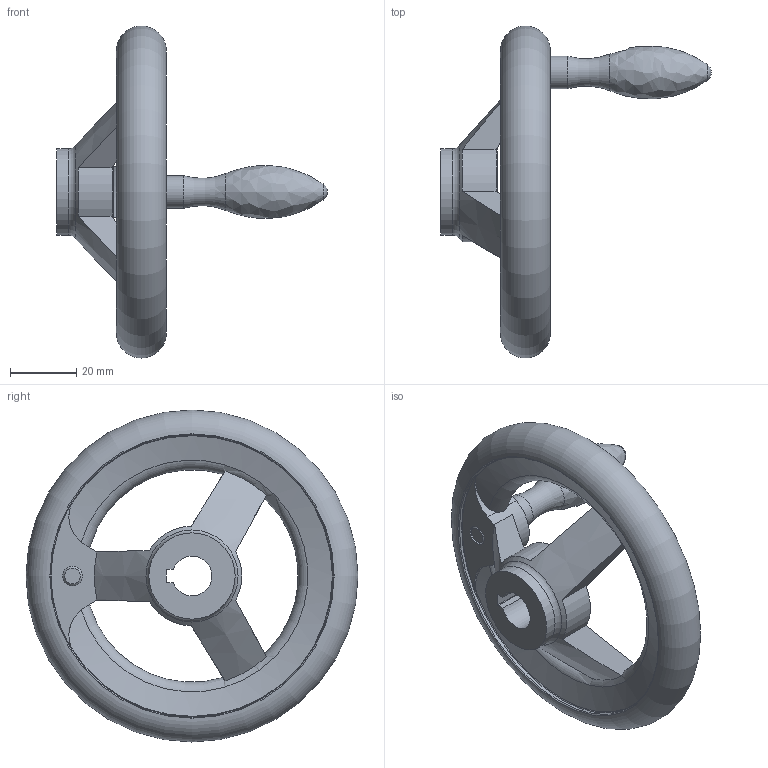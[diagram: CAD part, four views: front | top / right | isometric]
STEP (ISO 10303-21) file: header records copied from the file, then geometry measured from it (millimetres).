
FILE_DESCRIPTION( ( 'STEP AP203' ), '1' );
FILE_NAME( 'C:/Temp/Ganter_Step_05_03_2020/data/1_3/din_950/din_950_k/din_950_k_f/Handwheel DIN 950-AL-100-K12-F.stp', '2020-03-05T10:31:11', ( 'License CC BY-ND 4.0' ), ( 'CADENAS' ), ' ', 'PARTsolutions', ' ' );
FILE_SCHEMA( ( 'CONFIG_CONTROL_DESIGN' ) );
Length unit declared in the file: millimetre
Products named in the file (1): _Handwheel DIN 950-AL-100-K12-F
Bounding box: 81.5 x 100 x 100 mm (x, y, z)
Volume: 69537.8 mm3; surface area: 21321.1 mm2
Topology: 1 solids, 1 shells, 49 faces, 139 edges, 89 vertices
Faces by surface type: cylinder 17, plane 14, torus 11, cone 5, sphere 1, bspline 1
Full cylindrical faces by diameter (mm): 6 x1, 9.8 x1, 26 x2, 85 x2
Entity records: 1799 total; most frequent: CARTESIAN_POINT 625, DIRECTION 224, ORIENTED_EDGE 224, EDGE_CURVE 112, AXIS2_PLACEMENT_3D 100, VERTEX_POINT 83, EDGE_LOOP 73, FACE_OUTER_BOUND 64
